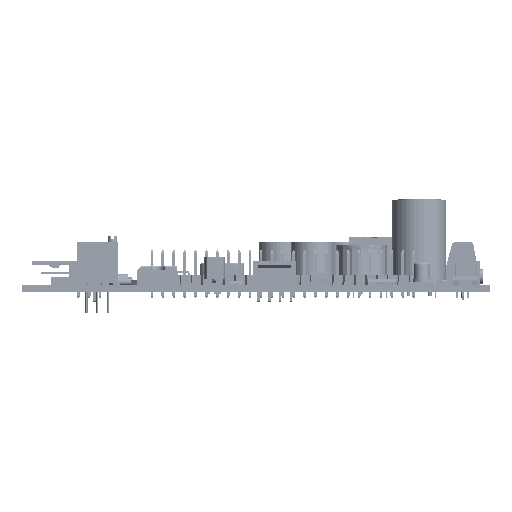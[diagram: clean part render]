
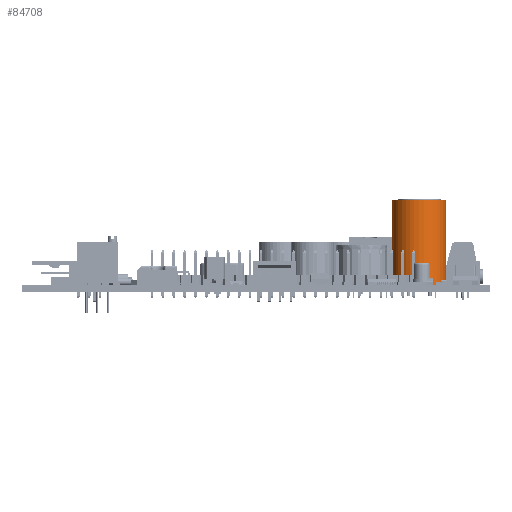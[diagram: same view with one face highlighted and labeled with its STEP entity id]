
A CAD part, left-side view. The second image highlights one B-rep face of the part: STEP entity #84708.
In plain terms, the highlighted cylindrical face has radius 6.3 mm (diameter 12.6 mm), a full revolution.
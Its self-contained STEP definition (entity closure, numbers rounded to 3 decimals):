
#84708 = ADVANCED_FACE('',(#84709),#84723,.T.);
#84709 = FACE_BOUND('',#84710,.T.);
#84710 = EDGE_LOOP('',(#84711,#84741,#84771,#84772));
#84711 = ORIENTED_EDGE('',*,*,#84712,.F.);
#84712 = EDGE_CURVE('',#84713,#84715,#84717,.T.);
#84713 = VERTEX_POINT('',#84714);
#84714 = CARTESIAN_POINT('',(6.3,0.,0.));
#84715 = VERTEX_POINT('',#84716);
#84716 = CARTESIAN_POINT('',(6.3,0.,20.));
#84717 = SEAM_CURVE('',#84718,(#84722,#84734),.PCURVE_S1.);
#84718 = LINE('',#84719,#84720);
#84719 = CARTESIAN_POINT('',(6.3,0.,0.));
#84720 = VECTOR('',#84721,1.);
#84721 = DIRECTION('',(0.,0.,1.));
#84722 = PCURVE('',#84723,#84728);
#84723 = CYLINDRICAL_SURFACE('',#84724,6.3);
#84724 = AXIS2_PLACEMENT_3D('',#84725,#84726,#84727);
#84725 = CARTESIAN_POINT('',(0.,0.,0.));
#84726 = DIRECTION('',(0.,0.,-1.));
#84727 = DIRECTION('',(1.,0.,0.));
#84728 = DEFINITIONAL_REPRESENTATION('',(#84729),#84733);
#84729 = LINE('',#84730,#84731);
#84730 = CARTESIAN_POINT('',(6.283,0.));
#84731 = VECTOR('',#84732,1.);
#84732 = DIRECTION('',(0.,-1.));
#84733 = ( GEOMETRIC_REPRESENTATION_CONTEXT(2) 
PARAMETRIC_REPRESENTATION_CONTEXT() REPRESENTATION_CONTEXT('2D SPACE',''
  ) );
#84734 = PCURVE('',#84723,#84735);
#84735 = DEFINITIONAL_REPRESENTATION('',(#84736),#84740);
#84736 = LINE('',#84737,#84738);
#84737 = CARTESIAN_POINT('',(0.,0.));
#84738 = VECTOR('',#84739,1.);
#84739 = DIRECTION('',(0.,-1.));
#84740 = ( GEOMETRIC_REPRESENTATION_CONTEXT(2) 
PARAMETRIC_REPRESENTATION_CONTEXT() REPRESENTATION_CONTEXT('2D SPACE',''
  ) );
#84741 = ORIENTED_EDGE('',*,*,#84742,.T.);
#84742 = EDGE_CURVE('',#84713,#84713,#84743,.T.);
#84743 = SURFACE_CURVE('',#84744,(#84749,#84755),.PCURVE_S1.);
#84744 = CIRCLE('',#84745,6.3);
#84745 = AXIS2_PLACEMENT_3D('',#84746,#84747,#84748);
#84746 = CARTESIAN_POINT('',(0.,0.,0.));
#84747 = DIRECTION('',(0.,0.,1.));
#84748 = DIRECTION('',(1.,0.,0.));
#84749 = PCURVE('',#84723,#84750);
#84750 = DEFINITIONAL_REPRESENTATION('',(#84751),#84754);
#84751 = B_SPLINE_CURVE_WITH_KNOTS('',1,(#84752,#84753),.UNSPECIFIED.,
  .F.,.F.,(2,2),(0.,6.283),.PIECEWISE_BEZIER_KNOTS.);
#84752 = CARTESIAN_POINT('',(6.283,0.));
#84753 = CARTESIAN_POINT('',(0.,0.));
#84754 = ( GEOMETRIC_REPRESENTATION_CONTEXT(2) 
PARAMETRIC_REPRESENTATION_CONTEXT() REPRESENTATION_CONTEXT('2D SPACE',''
  ) );
#84755 = PCURVE('',#84756,#84761);
#84756 = PLANE('',#84757);
#84757 = AXIS2_PLACEMENT_3D('',#84758,#84759,#84760);
#84758 = CARTESIAN_POINT('',(6.3,0.,0.));
#84759 = DIRECTION('',(0.,0.,-1.));
#84760 = DIRECTION('',(-1.,0.,0.));
#84761 = DEFINITIONAL_REPRESENTATION('',(#84762),#84770);
#84762 = ( BOUNDED_CURVE() B_SPLINE_CURVE(2,(#84763,#84764,#84765,#84766
    ,#84767,#84768,#84769),.UNSPECIFIED.,.F.,.F.) 
B_SPLINE_CURVE_WITH_KNOTS((1,2,2,2,2,1),(-2.094,0.,
    2.094,4.189,6.283,8.378),
.UNSPECIFIED.) CURVE() GEOMETRIC_REPRESENTATION_ITEM() 
RATIONAL_B_SPLINE_CURVE((1.,0.5,1.,0.5,1.,0.5,1.)) REPRESENTATION_ITEM(
  '') );
#84763 = CARTESIAN_POINT('',(0.,0.));
#84764 = CARTESIAN_POINT('',(0.,10.912));
#84765 = CARTESIAN_POINT('',(9.45,5.456));
#84766 = CARTESIAN_POINT('',(18.9,0.));
#84767 = CARTESIAN_POINT('',(9.45,-5.456));
#84768 = CARTESIAN_POINT('',(0.,-10.912));
#84769 = CARTESIAN_POINT('',(0.,0.));
#84770 = ( GEOMETRIC_REPRESENTATION_CONTEXT(2) 
PARAMETRIC_REPRESENTATION_CONTEXT() REPRESENTATION_CONTEXT('2D SPACE',''
  ) );
#84771 = ORIENTED_EDGE('',*,*,#84712,.T.);
#84772 = ORIENTED_EDGE('',*,*,#84773,.F.);
#84773 = EDGE_CURVE('',#84715,#84715,#84774,.T.);
#84774 = SURFACE_CURVE('',#84775,(#84780,#84786),.PCURVE_S1.);
#84775 = CIRCLE('',#84776,6.3);
#84776 = AXIS2_PLACEMENT_3D('',#84777,#84778,#84779);
#84777 = CARTESIAN_POINT('',(0.,0.,20.));
#84778 = DIRECTION('',(0.,0.,1.));
#84779 = DIRECTION('',(1.,0.,0.));
#84780 = PCURVE('',#84723,#84781);
#84781 = DEFINITIONAL_REPRESENTATION('',(#84782),#84785);
#84782 = B_SPLINE_CURVE_WITH_KNOTS('',1,(#84783,#84784),.UNSPECIFIED.,
  .F.,.F.,(2,2),(0.,6.283),.PIECEWISE_BEZIER_KNOTS.);
#84783 = CARTESIAN_POINT('',(6.283,-20.));
#84784 = CARTESIAN_POINT('',(0.,-20.));
#84785 = ( GEOMETRIC_REPRESENTATION_CONTEXT(2) 
PARAMETRIC_REPRESENTATION_CONTEXT() REPRESENTATION_CONTEXT('2D SPACE',''
  ) );
#84786 = PCURVE('',#84787,#84792);
#84787 = PLANE('',#84788);
#84788 = AXIS2_PLACEMENT_3D('',#84789,#84790,#84791);
#84789 = CARTESIAN_POINT('',(6.3,0.,20.));
#84790 = DIRECTION('',(0.,0.,-1.));
#84791 = DIRECTION('',(-1.,0.,0.));
#84792 = DEFINITIONAL_REPRESENTATION('',(#84793),#84801);
#84793 = ( BOUNDED_CURVE() B_SPLINE_CURVE(2,(#84794,#84795,#84796,#84797
    ,#84798,#84799,#84800),.UNSPECIFIED.,.F.,.F.) 
B_SPLINE_CURVE_WITH_KNOTS((1,2,2,2,2,1),(-2.094,0.,
    2.094,4.189,6.283,8.378),
.UNSPECIFIED.) CURVE() GEOMETRIC_REPRESENTATION_ITEM() 
RATIONAL_B_SPLINE_CURVE((1.,0.5,1.,0.5,1.,0.5,1.)) REPRESENTATION_ITEM(
  '') );
#84794 = CARTESIAN_POINT('',(0.,0.));
#84795 = CARTESIAN_POINT('',(0.,10.912));
#84796 = CARTESIAN_POINT('',(9.45,5.456));
#84797 = CARTESIAN_POINT('',(18.9,0.));
#84798 = CARTESIAN_POINT('',(9.45,-5.456));
#84799 = CARTESIAN_POINT('',(0.,-10.912));
#84800 = CARTESIAN_POINT('',(0.,0.));
#84801 = ( GEOMETRIC_REPRESENTATION_CONTEXT(2) 
PARAMETRIC_REPRESENTATION_CONTEXT() REPRESENTATION_CONTEXT('2D SPACE',''
  ) );
